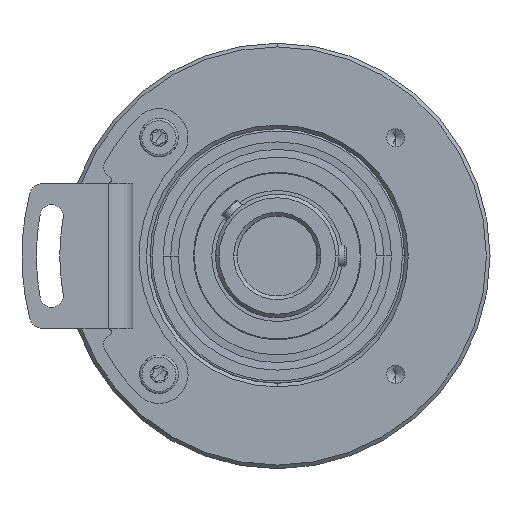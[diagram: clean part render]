
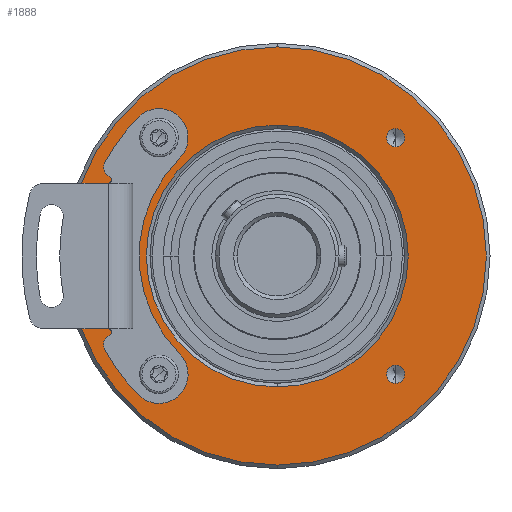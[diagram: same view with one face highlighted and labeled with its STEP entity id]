
A CAD part, front view. The second image highlights one B-rep face of the part: STEP entity #1888.
In plain terms, the highlighted planar face has unit normal (0, -1, 0).
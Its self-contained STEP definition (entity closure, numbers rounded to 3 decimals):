
#228 = AXIS2_PLACEMENT_3D ( 'NONE', #4671, #6320, #16565 ) ;
#740 = VERTEX_POINT ( 'NONE', #2092 ) ;
#951 = ORIENTED_EDGE ( 'NONE', *, *, #6303, .T. ) ;
#1011 = CIRCLE ( 'NONE', #9668, 1.25 ) ;
#1039 = CARTESIAN_POINT ( 'NONE',  ( 16.263, 0., 16.263 ) ) ;
#1115 = DIRECTION ( 'NONE',  ( 0., 0., -1. ) ) ;
#1259 = CARTESIAN_POINT ( 'NONE',  ( -16.263, 0., 16.263 ) ) ;
#1579 = CARTESIAN_POINT ( 'NONE',  ( 0., 0., 0. ) ) ;
#1871 = EDGE_CURVE ( 'NONE', #19322, #6606, #14346, .T. ) ;
#1888 = ADVANCED_FACE ( 'NONE', ( #16177, #10614, #8248, #6144, #4814, #19040 ), #14046, .T. ) ;
#1889 = CARTESIAN_POINT ( 'NONE',  ( 16.263, 0., -17.513 ) ) ;
#2032 = CARTESIAN_POINT ( 'NONE',  ( 0., 0., 18. ) ) ;
#2092 = CARTESIAN_POINT ( 'NONE',  ( 0., 0., 28.75 ) ) ;
#2222 = DIRECTION ( 'NONE',  ( 0., -1., 0. ) ) ;
#3702 = AXIS2_PLACEMENT_3D ( 'NONE', #21499, #9829, #8141 ) ;
#3838 = CARTESIAN_POINT ( 'NONE',  ( 16.263, 0., -16.263 ) ) ;
#4229 = EDGE_LOOP ( 'NONE', ( #9051, #7704 ) ) ;
#4274 = EDGE_CURVE ( 'NONE', #5838, #6993, #11852, .T. ) ;
#4378 = DIRECTION ( 'NONE',  ( 0., -1., 0. ) ) ;
#4612 = CIRCLE ( 'NONE', #15604, 1.25 ) ;
#4671 = CARTESIAN_POINT ( 'NONE',  ( 16.263, 0., -16.263 ) ) ;
#4682 = AXIS2_PLACEMENT_3D ( 'NONE', #1039, #12831, #14418 ) ;
#4814 = FACE_BOUND ( 'NONE', #6592, .T. ) ;
#4924 = CIRCLE ( 'NONE', #3702, 18. ) ;
#5147 = EDGE_CURVE ( 'NONE', #9817, #9800, #1011, .T. ) ;
#5628 = CIRCLE ( 'NONE', #7738, 28.75 ) ;
#5772 = DIRECTION ( 'NONE',  ( 0., 0., -1. ) ) ;
#5838 = VERTEX_POINT ( 'NONE', #15990 ) ;
#6048 = DIRECTION ( 'NONE',  ( 0., -1., 0. ) ) ;
#6099 = DIRECTION ( 'NONE',  ( 0., 0., -1. ) ) ;
#6144 = FACE_BOUND ( 'NONE', #13025, .T. ) ;
#6303 = EDGE_CURVE ( 'NONE', #7120, #740, #5628, .T. ) ;
#6320 = DIRECTION ( 'NONE',  ( 0., -1., 0. ) ) ;
#6592 = EDGE_LOOP ( 'NONE', ( #14915, #10425 ) ) ;
#6606 = VERTEX_POINT ( 'NONE', #8885 ) ;
#6773 = DIRECTION ( 'NONE',  ( 0., 1., 0. ) ) ;
#6864 = DIRECTION ( 'NONE',  ( 0., -1., 0. ) ) ;
#6993 = VERTEX_POINT ( 'NONE', #15187 ) ;
#7049 = CARTESIAN_POINT ( 'NONE',  ( -16.263, 0., -16.263 ) ) ;
#7120 = VERTEX_POINT ( 'NONE', #19321 ) ;
#7603 = DIRECTION ( 'NONE',  ( 0., 0., -1. ) ) ;
#7660 = CIRCLE ( 'NONE', #17229, 1.25 ) ;
#7704 = ORIENTED_EDGE ( 'NONE', *, *, #9423, .T. ) ;
#7738 = AXIS2_PLACEMENT_3D ( 'NONE', #21029, #6048, #17861 ) ;
#8141 = DIRECTION ( 'NONE',  ( 0., 0., -1. ) ) ;
#8162 = VERTEX_POINT ( 'NONE', #10820 ) ;
#8248 = FACE_BOUND ( 'NONE', #13407, .T. ) ;
#8327 = ORIENTED_EDGE ( 'NONE', *, *, #18192, .F. ) ;
#8727 = DIRECTION ( 'NONE',  ( 0., 0., -1. ) ) ;
#8885 = CARTESIAN_POINT ( 'NONE',  ( 16.263, 0., -15.013 ) ) ;
#9051 = ORIENTED_EDGE ( 'NONE', *, *, #16472, .T. ) ;
#9401 = CARTESIAN_POINT ( 'NONE',  ( -16.263, 0., -15.013 ) ) ;
#9423 = EDGE_CURVE ( 'NONE', #13931, #15758, #16011, .T. ) ;
#9507 = EDGE_LOOP ( 'NONE', ( #11750, #13894 ) ) ;
#9597 = DIRECTION ( 'NONE',  ( 0., -1., 0. ) ) ;
#9668 = AXIS2_PLACEMENT_3D ( 'NONE', #7049, #12123, #13787 ) ;
#9800 = VERTEX_POINT ( 'NONE', #9401 ) ;
#9817 = VERTEX_POINT ( 'NONE', #14290 ) ;
#9829 = DIRECTION ( 'NONE',  ( 0., 1., 0. ) ) ;
#9974 = CIRCLE ( 'NONE', #16548, 28.75 ) ;
#10123 = DIRECTION ( 'NONE',  ( 0., -1., 0. ) ) ;
#10145 = CARTESIAN_POINT ( 'NONE',  ( 0., 0., 0. ) ) ;
#10177 = AXIS2_PLACEMENT_3D ( 'NONE', #17816, #21419, #11305 ) ;
#10425 = ORIENTED_EDGE ( 'NONE', *, *, #17404, .F. ) ;
#10614 = FACE_BOUND ( 'NONE', #9507, .T. ) ;
#10820 = CARTESIAN_POINT ( 'NONE',  ( -16.263, 0., 17.513 ) ) ;
#11044 = CIRCLE ( 'NONE', #10177, 1.25 ) ;
#11120 = ORIENTED_EDGE ( 'NONE', *, *, #19235, .T. ) ;
#11138 = DIRECTION ( 'NONE',  ( 0., -1., 0. ) ) ;
#11305 = DIRECTION ( 'NONE',  ( 0., 0., -1. ) ) ;
#11537 = DIRECTION ( 'NONE',  ( 0., 0., -1. ) ) ;
#11750 = ORIENTED_EDGE ( 'NONE', *, *, #12198, .F. ) ;
#11852 = CIRCLE ( 'NONE', #4682, 1.25 ) ;
#11944 = CARTESIAN_POINT ( 'NONE',  ( 16.263, 0., 16.263 ) ) ;
#12123 = DIRECTION ( 'NONE',  ( 0., -1., 0. ) ) ;
#12198 = EDGE_CURVE ( 'NONE', #19434, #8162, #11044, .T. ) ;
#12228 = CIRCLE ( 'NONE', #228, 1.25 ) ;
#12831 = DIRECTION ( 'NONE',  ( 0., -1., 0. ) ) ;
#13025 = EDGE_LOOP ( 'NONE', ( #14835, #16359 ) ) ;
#13407 = EDGE_LOOP ( 'NONE', ( #8327, #21679 ) ) ;
#13741 = EDGE_CURVE ( 'NONE', #9800, #9817, #15238, .T. ) ;
#13787 = DIRECTION ( 'NONE',  ( 0., 0., -1. ) ) ;
#13894 = ORIENTED_EDGE ( 'NONE', *, *, #20074, .F. ) ;
#13931 = VERTEX_POINT ( 'NONE', #2032 ) ;
#14046 = PLANE ( 'NONE',  #17460 ) ;
#14290 = CARTESIAN_POINT ( 'NONE',  ( -16.263, 0., -17.513 ) ) ;
#14346 = CIRCLE ( 'NONE', #19266, 1.25 ) ;
#14418 = DIRECTION ( 'NONE',  ( 0., 0., -1. ) ) ;
#14835 = ORIENTED_EDGE ( 'NONE', *, *, #5147, .F. ) ;
#14915 = ORIENTED_EDGE ( 'NONE', *, *, #1871, .F. ) ;
#14946 = AXIS2_PLACEMENT_3D ( 'NONE', #10145, #6773, #8727 ) ;
#15187 = CARTESIAN_POINT ( 'NONE',  ( 16.263, 0., 15.013 ) ) ;
#15238 = CIRCLE ( 'NONE', #18014, 1.25 ) ;
#15508 = EDGE_LOOP ( 'NONE', ( #11120, #951 ) ) ;
#15604 = AXIS2_PLACEMENT_3D ( 'NONE', #1259, #9597, #1115 ) ;
#15758 = VERTEX_POINT ( 'NONE', #20531 ) ;
#15990 = CARTESIAN_POINT ( 'NONE',  ( 16.263, 0., 17.513 ) ) ;
#16011 = CIRCLE ( 'NONE', #14946, 18. ) ;
#16177 = FACE_BOUND ( 'NONE', #4229, .T. ) ;
#16359 = ORIENTED_EDGE ( 'NONE', *, *, #13741, .F. ) ;
#16472 = EDGE_CURVE ( 'NONE', #15758, #13931, #4924, .T. ) ;
#16548 = AXIS2_PLACEMENT_3D ( 'NONE', #1579, #10123, #11537 ) ;
#16565 = DIRECTION ( 'NONE',  ( 0., 0., -1. ) ) ;
#17229 = AXIS2_PLACEMENT_3D ( 'NONE', #11944, #6864, #20320 ) ;
#17404 = EDGE_CURVE ( 'NONE', #6606, #19322, #12228, .T. ) ;
#17460 = AXIS2_PLACEMENT_3D ( 'NONE', #19453, #11138, #7603 ) ;
#17510 = CARTESIAN_POINT ( 'NONE',  ( -16.263, 0., 15.013 ) ) ;
#17816 = CARTESIAN_POINT ( 'NONE',  ( -16.263, 0., 16.263 ) ) ;
#17861 = DIRECTION ( 'NONE',  ( 0., 0., -1. ) ) ;
#18014 = AXIS2_PLACEMENT_3D ( 'NONE', #18112, #4378, #6099 ) ;
#18112 = CARTESIAN_POINT ( 'NONE',  ( -16.263, 0., -16.263 ) ) ;
#18192 = EDGE_CURVE ( 'NONE', #6993, #5838, #7660, .T. ) ;
#19040 = FACE_OUTER_BOUND ( 'NONE', #15508, .T. ) ;
#19235 = EDGE_CURVE ( 'NONE', #740, #7120, #9974, .T. ) ;
#19266 = AXIS2_PLACEMENT_3D ( 'NONE', #3838, #2222, #5772 ) ;
#19321 = CARTESIAN_POINT ( 'NONE',  ( 0., 0., -28.75 ) ) ;
#19322 = VERTEX_POINT ( 'NONE', #1889 ) ;
#19434 = VERTEX_POINT ( 'NONE', #17510 ) ;
#19453 = CARTESIAN_POINT ( 'NONE',  ( 0., 0., 0. ) ) ;
#20074 = EDGE_CURVE ( 'NONE', #8162, #19434, #4612, .T. ) ;
#20320 = DIRECTION ( 'NONE',  ( 0., 0., -1. ) ) ;
#20531 = CARTESIAN_POINT ( 'NONE',  ( 0., 0., -18. ) ) ;
#21029 = CARTESIAN_POINT ( 'NONE',  ( 0., 0., 0. ) ) ;
#21419 = DIRECTION ( 'NONE',  ( 0., -1., 0. ) ) ;
#21499 = CARTESIAN_POINT ( 'NONE',  ( 0., 0., 0. ) ) ;
#21679 = ORIENTED_EDGE ( 'NONE', *, *, #4274, .F. ) ;
